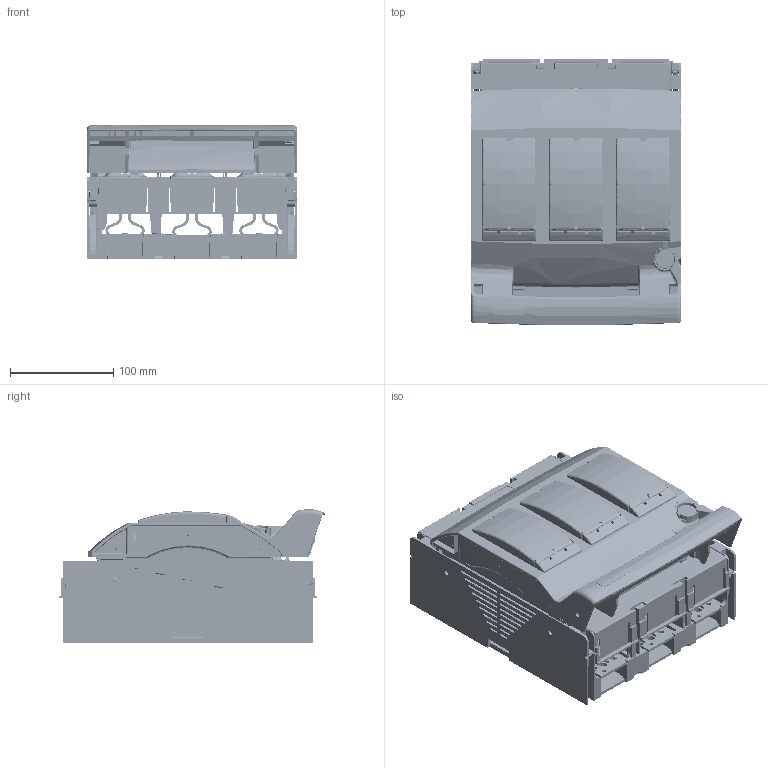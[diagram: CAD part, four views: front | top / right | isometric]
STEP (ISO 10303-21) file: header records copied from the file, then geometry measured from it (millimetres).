
FILE_DESCRIPTION (( 'STEP AP203' ), '1' );
FILE_NAME ('2ST8-3p.STEP', '2014-04-11T06:48:36', ( 'admin' ), ( '' ), 'SwSTEP 2.0', 'SolidWorks 2007', '' );
FILE_SCHEMA (( 'CONFIG_CONTROL_DESIGN' ));
Products named in the file (1): 2ST8-3p
Bounding box: 204.5 x 259.03 x 130.5 mm (x, y, z)
Volume: 767811.3 mm3; surface area: 803495.8 mm2
Topology: 50 solids, 51 shells, 10023 faces, 27129 edges, 16910 vertices
Faces by surface type: plane 4628, cylinder 2939, bspline 1967, cone 469, torus 20
Entity records: 397279 total; most frequent: CARTESIAN_POINT 167802, ORIENTED_EDGE 53812, DIRECTION 39357, EDGE_CURVE 26906, VERTEX_POINT 16911, VECTOR 15531, LINE 15531, AXIS2_PLACEMENT_3D 11913
